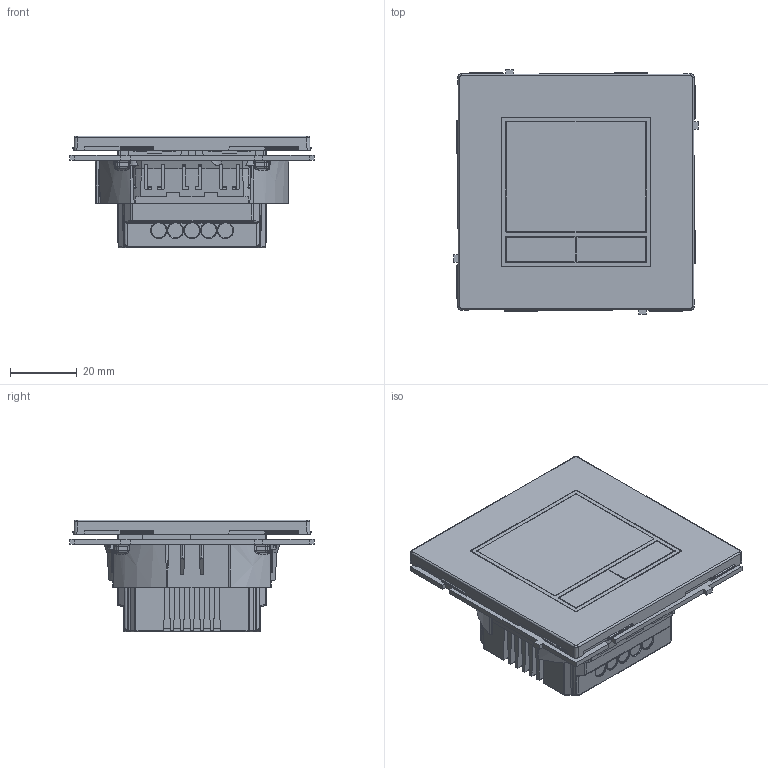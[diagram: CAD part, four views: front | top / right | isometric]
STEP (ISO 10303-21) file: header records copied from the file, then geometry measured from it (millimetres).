
FILE_DESCRIPTION (( 'STEP AP203' ), '1' );
FILE_NAME ('Ñâåòîðåãóëÿòîð óìíûé äîì KANT.STEP', '2025-12-05T07:56:57', ( '' ), ( '' ), 'SwSTEP 2.0', 'SolidWorks 2022', '' );
FILE_SCHEMA (( 'CONFIG_CONTROL_DESIGN' ));
Products named in the file (1): Светорегулятор умный дом KANT
Bounding box: 73.5 x 73.5 x 33.56 mm (x, y, z)
Volume: 83547.4 mm3; surface area: 35677.9 mm2
Topology: 2 solids, 3 shells, 2167 faces, 6246 edges, 4025 vertices
Faces by surface type: plane 1216, cylinder 480, bspline 349, cone 58, sphere 32, torus 32
Entity records: 82528 total; most frequent: CARTESIAN_POINT 30614, ORIENTED_EDGE 12332, DIRECTION 8684, EDGE_CURVE 6166, VERTEX_POINT 4001, VECTOR 3952, LINE 3952, AXIS2_PLACEMENT_3D 2366
